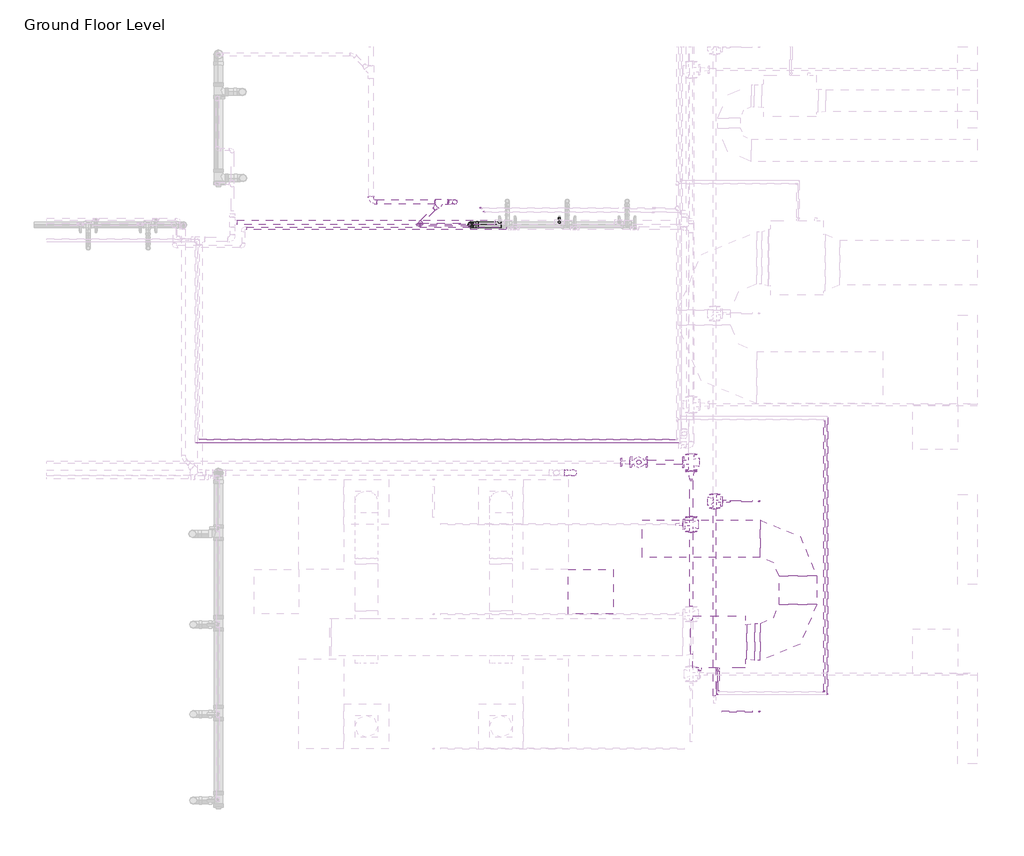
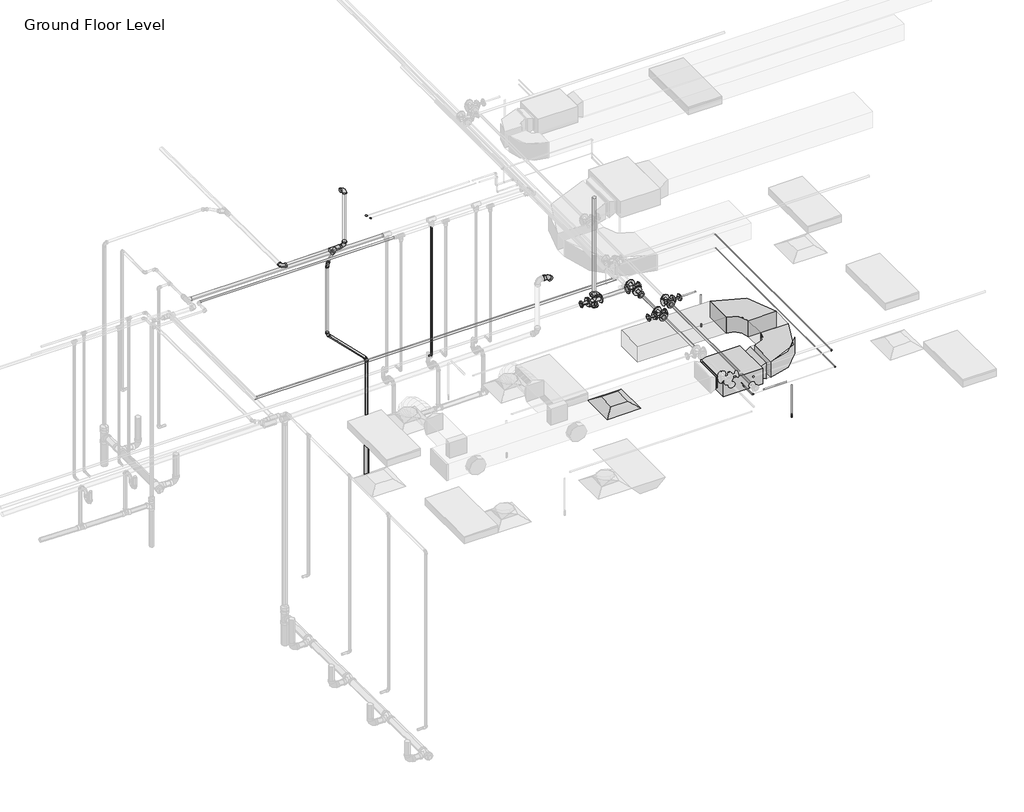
# One storey, part 15 of 68: 29 pipe segments, 24 pipe fittings, 3 duct fittings, 3 duct segments, 2 fire suppression terminals, 1 air terminal, 1 proxy.
"""IFC4 building model written with IfcOpenShell, lengths in millimetres."""

from ifc_helpers import new_model, si_unit, point, frame, frame_2d, origin, place, context, project, spatial, polyline, circle_curve, trimmed, segment, composite_curve, outline, extrude, transform, mapped, element, save
from components import m_return_diffuser_600_x_600_face_300_x_300_connection_ff221211, fcu_daikin_iu_bad131e0, m_rectangular_elbow_radius_1_w_abe20169, m_rectangular_transition_angle_45_degree_f7c2916c, m_sprinkler_pendent_15_mm_pendent_06fcbd8e, m_bend_pvc_sch_40_dwv_standard_ec028db0, m_bend_pvc_sch_40_dwv_standard_952ced8a, m_bend_pvc_sch_40_dwv_standard_1eaeee76, m_bend_pvc_sch_40_dwv_standard_35448a73, m_bend_pvc_sch_40_dwv_standard_15ff6dcd, m_bend_pvc_sch_40_dwv_standard_14735a05, m_elbow_generic_standard_a088f956, m_elbow_generic_standard_2a704253, m_elbow_generic_standard_bb5ffebe, m_elbow_generic_standard_f0c60a04, m_reducer_flanged_cs_class_150_standard_d42b2106, m_reducer_flanged_cs_class_150_standard_a7631c35, m_reducer_flanged_cs_class_150_standard_678fb8eb, m_reducer_flanged_cs_class_150_standard_13db1923, m_reducer_pvc_sch_40_dwv_standard_b84ad399, m_reducer_pvc_sch_40_dwv_standard_7e12a7c1, m_tee_pvc_sch_40_standard_19f5fb6d, m_tee_reducing_sanitary_pvc_sch_40_dwv_standard_b574f8c1, m_tee_round_base_flanged_cs_class_150_standard_dd767e04, m_tee_round_base_flanged_cs_class_150_standard_7e5987a1, m_tee_round_base_flanged_cs_class_150_standard_9c9133d0

model = new_model("IFC4")

# Units and contexts
model_context = context("Model", 3, world=origin())
ifc_project = project(units=[si_unit("LENGTHUNIT", "METRE", prefix="MILLI")], contexts=[model_context])

# Site, building, storey
site = spatial("IfcSite", under=ifc_project)
building = spatial("IfcBuilding", under=site)
storey = spatial("IfcBuildingStorey", under=building, Name="Ground Floor Level", Elevation=900.0)

# Air terminal
placement = place(None, origin())
m_return_diffuser_600_x_600_face_300_x_300_connection_shape = m_return_diffuser_600_x_600_face_300_x_300_connection_ff221211(model_context)
element("IfcAirTerminal", 1, ObjectType="M_Return Diffuser : 600 x 600 Face 300 x 300 Connection", at=placement, inside=storey, context=model_context, shape_type="MappedRepresentation", body=[
    mapped(m_return_diffuser_600_x_600_face_300_x_300_connection_shape, transform((4342.7672394, -37764.7846466, 3650.0), x_axis=(1.0, 0.0, 0.0), y_axis=(0.0, 1.0, 0.0), z_axis=(0.0, 0.0, 1.0))),
])

# Proxy
fcu_daikin_iu_shape = fcu_daikin_iu_bad131e0(model_context)
element("IfcBuildingElementProxy", 2, Name="FCU-DAIKIN IU : 4.5kW, 230V/50Hz/1Ph", ObjectType="FCU-DAIKIN IU : 4.5kW, 230V/50Hz/1Ph", at=placement, inside=storey, context=model_context, shape_type="MappedRepresentation", body=[
    mapped(fcu_daikin_iu_shape, transform((6052.7672394, -38436.1128682, 3934.0875), x_axis=(0.0, -1.0, 0.0), y_axis=(1.0, 0.0, 0.0), z_axis=(0.0, 0.0, 1.0))),
])

# Duct fittings
m_rectangular_elbow_radius_1_w_shape = m_rectangular_elbow_radius_1_w_abe20169(model_context)
element("IfcDuctFitting", 3, ObjectType="M_Rectangular Elbow - Radius : 1 W", at=placement, inside=storey, context=model_context, shape_type="MappedRepresentation", body=[
    mapped(m_rectangular_elbow_radius_1_w_shape, transform((7108.1672394, -38436.1128682, 4075.2875), x_axis=(1.0, 0.0, 0.0), y_axis=(0.0, 1.0, 0.0), z_axis=(0.0, 0.0, 1.0))),
])
element("IfcDuctFitting", 4, ObjectType="M_Rectangular Elbow - Radius : 1 W", at=placement, inside=storey, context=model_context, shape_type="MappedRepresentation", body=[
    mapped(m_rectangular_elbow_radius_1_w_shape, transform((7108.1672394, -37056.1128682, 4075.2875), x_axis=(0.0, 1.0, 0.0), y_axis=(-1.0, 0.0, 0.0), z_axis=(0.0, 0.0, 1.0))),
])
m_rectangular_transition_angle_45_degree_shape = m_rectangular_transition_angle_45_degree_f7c2916c(model_context)
element("IfcDuctFitting", 5, ObjectType="M_Rectangular Transition - Angle : 45 Degree", at=placement, inside=storey, context=model_context, shape_type="MappedRepresentation", body=[
    mapped(m_rectangular_transition_angle_45_degree_shape, transform((6428.1672394, -38436.1128682, 4075.2875), x_axis=(1.0, 0.0, 0.0), y_axis=(0.0, 1.0, 0.0), z_axis=(0.0, 0.0, 1.0))),
])

# Duct segments
element("IfcDuctSegment", 6, ObjectType="Radius Elbows / Taps", at=placement, inside=storey, context=model_context, shape_type="SweptSolid", body=[
    extrude(outline(polyline([(6531.6162906, -38686.1128682), (6531.6162906, -38186.1128682), (6608.1672394, -38186.1128682), (6608.1672394, -38686.1128682), (6531.6162906, -38686.1128682)])), frame((0.0, 0.0, 3925.2875), z_axis=(0.0, 0.0, 1.0), x_axis=(1.0, 0.0, 0.0)), (0.0, 0.0, 1.0), 300.0),
])
element("IfcDuctSegment", 7, ObjectType="Radius Elbows / Taps", at=placement, inside=storey, context=model_context, shape_type="SweptSolid", body=[
    extrude(outline(polyline([(7358.1672394, -37936.1128682), (6858.1672394, -37936.1128682), (6858.1672394, -37556.1128682), (7358.1672394, -37556.1128682), (7358.1672394, -37936.1128682)])), frame((0.0, 0.0, 3925.2875), z_axis=(0.0, 0.0, 1.0), x_axis=(1.0, 0.0, 0.0)), (0.0, 0.0, 1.0), 300.0),
])
element("IfcDuctSegment", 8, ObjectType="Radius Elbows / Taps", at=placement, inside=storey, context=model_context, shape_type="SweptSolid", body=[
    extrude(outline(polyline([(6608.1672394, -36806.1128682), (6608.1672394, -37306.1128682), (5028.1672394, -37306.1128682), (5028.1672394, -36806.1128682), (6608.1672394, -36806.1128682)])), frame((0.0, 0.0, 3925.2875), z_axis=(0.0, 0.0, 1.0), x_axis=(1.0, 0.0, 0.0)), (0.0, 0.0, 1.0), 300.0),
])

# Fire suppression terminals
m_sprinkler_pendent_15_mm_pendent_shape = m_sprinkler_pendent_15_mm_pendent_06fcbd8e(model_context)
element("IfcFireSuppressionTerminal", 9, ObjectType="M_Sprinkler - Pendent : 15 mm Pendent", at=placement, inside=storey, context=model_context, shape_type="MappedRepresentation", body=[
    mapped(m_sprinkler_pendent_15_mm_pendent_shape, transform((6592.5481019, -36555.4049984, 3650.0), x_axis=(1.0, 0.0, 0.0), y_axis=(0.0, 1.0, 0.0), z_axis=(0.0, 0.0, 1.0))),
])
element("IfcFireSuppressionTerminal", 10, ObjectType="M_Sprinkler - Pendent : 15 mm Pendent", at=placement, inside=storey, context=model_context, shape_type="MappedRepresentation", body=[
    mapped(m_sprinkler_pendent_15_mm_pendent_shape, transform((6592.5481019, -39366.4607861, 3650.0), x_axis=(1.0, 0.0, 0.0), y_axis=(0.0, 1.0, 0.0), z_axis=(0.0, 0.0, 1.0))),
])

# Pipe fittings
m_bend_pvc_sch_40_dwv_standard_shape = m_bend_pvc_sch_40_dwv_standard_ec028db0(model_context)
element("IfcPipeFitting", 11, ObjectType="M_Bend - PVC - Sch 40 - DWV : Standard", at=placement, inside=storey, context=model_context, shape_type="MappedRepresentation", body=[
    mapped(m_bend_pvc_sch_40_dwv_standard_shape, transform((1404.8829692, -32554.2948449, 4125.20016), x_axis=(0.0, -0.9999500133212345, 0.009998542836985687), y_axis=(0.9999500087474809, 9.997543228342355e-05, 0.00999850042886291), z_axis=(-0.009999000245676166, 0.0099980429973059, 0.9999000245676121))),
])
m_bend_pvc_sch_40_dwv_standard_2_shape = m_bend_pvc_sch_40_dwv_standard_952ced8a(model_context)
element("IfcPipeFitting", 12, ObjectType="M_Bend - PVC - Sch 40 - DWV : Standard", at=placement, inside=storey, context=model_context, shape_type="MappedRepresentation", body=[
    mapped(m_bend_pvc_sch_40_dwv_standard_2_shape, transform((2524.6562734, -32554.2948449, 4136.397893), x_axis=(0.9999500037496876, 0.0, 0.009999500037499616), y_axis=(-0.009999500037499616, 0.0, 0.9999500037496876), z_axis=(0.0, -1.0, 0.0))),
])
m_bend_pvc_sch_40_dwv_standard_3_shape = m_bend_pvc_sch_40_dwv_standard_1eaeee76(model_context)
element("IfcPipeFitting", 13, ObjectType="M_Bend - PVC - Sch 40 - DWV : Standard", at=placement, inside=storey, context=model_context, shape_type="MappedRepresentation", body=[
    mapped(m_bend_pvc_sch_40_dwv_standard_3_shape, transform((2524.640275, -32554.2948449, 5200.0), x_axis=(0.0, 0.0, 1.0), y_axis=(-1.0, 0.0, 0.0), z_axis=(0.0, -1.0, 0.0))),
])
m_bend_pvc_sch_40_dwv_standard_4_shape = m_bend_pvc_sch_40_dwv_standard_35448a73(model_context)
element("IfcPipeFitting", 14, ObjectType="M_Bend - PVC - Sch 40 - DWV : Standard", at=placement, inside=storey, context=model_context, shape_type="MappedRepresentation", body=[
    mapped(m_bend_pvc_sch_40_dwv_standard_4_shape, transform((2740.8154211, -32858.7119065, 2103.6875), x_axis=(0.0, 0.0, 1.0), y_axis=(-1.0, 0.0, 0.0), z_axis=(0.0, -1.0, 0.0))),
])
element("IfcPipeFitting", 15, ObjectType="M_Bend - PVC - Sch 40 - DWV : Standard", at=placement, inside=storey, context=model_context, shape_type="MappedRepresentation", body=[
    mapped(m_bend_pvc_sch_40_dwv_standard_4_shape, transform((2040.8154211, -32858.7119065, 2803.6875), x_axis=(0.0, 0.0, -1.0), y_axis=(1.0, 0.0, 0.0), z_axis=(0.0, -1.0, 0.0))),
])
m_bend_pvc_sch_40_dwv_standard_5_shape = m_bend_pvc_sch_40_dwv_standard_15ff6dcd(model_context)
element("IfcPipeFitting", 16, ObjectType="M_Bend - PVC - Sch 40 - DWV : Standard", at=placement, inside=storey, context=model_context, shape_type="MappedRepresentation", body=[
    mapped(m_bend_pvc_sch_40_dwv_standard_5_shape, transform((2040.8154211, -32858.7119065, 4132.2), x_axis=(0.0, 0.0, 1.0), y_axis=(0.7067664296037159, 0.7074469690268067, 0.0), z_axis=(-0.7074469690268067, 0.7067664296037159, 0.0))),
])
m_bend_pvc_sch_40_dwv_standard_6_shape = m_bend_pvc_sch_40_dwv_standard_14735a05(model_context)
element("IfcPipeFitting", 17, ObjectType="M_Bend - PVC - Sch 40 - DWV : Standard", at=placement, inside=storey, context=model_context, shape_type="MappedRepresentation", body=[
    mapped(m_bend_pvc_sch_40_dwv_standard_6_shape, transform((4066.142039, -36176.1401483, 5198.6726756), x_axis=(0.9999500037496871, 0.0, -0.009999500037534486), y_axis=(-0.009999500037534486, 0.0, -0.9999500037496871), z_axis=(0.0, 1.0, 0.0))),
])
m_elbow_generic_standard_shape = m_elbow_generic_standard_a088f956(model_context)
element("IfcPipeFitting", 18, ObjectType="M_Elbow - Generic : Standard", at=placement, inside=storey, context=model_context, shape_type="MappedRepresentation", body=[
    mapped(m_elbow_generic_standard_shape, transform((7462.8951827, -39103.1206952, 4390.0), x_axis=(1.0, 0.0, 0.0), y_axis=(0.0, 1.0, 0.0), z_axis=(0.0, 0.0, 1.0))),
])
m_elbow_generic_standard_2_shape = m_elbow_generic_standard_2a704253(model_context)
element("IfcPipeFitting", 19, ObjectType="M_Elbow - Generic : Standard", at=placement, inside=storey, context=model_context, shape_type="MappedRepresentation", body=[
    mapped(m_elbow_generic_standard_2_shape, transform((7503.9904113, -39140.6009836, 4084.9), x_axis=(1.0, 0.0, 0.0), y_axis=(0.0, 1.0, 0.0), z_axis=(0.0, 0.0, 1.0))),
])
element("IfcPipeFitting", 20, ObjectType="M_Elbow - Generic : Standard", at=placement, inside=storey, context=model_context, shape_type="MappedRepresentation", body=[
    mapped(m_elbow_generic_standard_2_shape, transform((6027.7672393, -39140.6009836, 4084.9), x_axis=(0.0, -0.9999999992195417, 3.9508437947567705e-05), y_axis=(1.0000000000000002, 0.0, 0.0), z_axis=(0.0, 3.9508437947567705e-05, 0.9999999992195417))),
])
m_elbow_generic_standard_3_shape = m_elbow_generic_standard_bb5ffebe(model_context)
element("IfcPipeFitting", 21, ObjectType="M_Elbow - Generic : Standard", at=placement, inside=storey, context=model_context, shape_type="MappedRepresentation", body=[
    mapped(m_elbow_generic_standard_3_shape, transform((2867.2893107, -32638.716218, 4621.4908765), x_axis=(0.0, -1.0, 0.0), y_axis=(1.0, 0.0, 0.0), z_axis=(0.0, 0.0, 1.0))),
])
m_elbow_generic_standard_4_shape = m_elbow_generic_standard_f0c60a04(model_context)
element("IfcPipeFitting", 22, ObjectType="M_Elbow - Generic : Standard", at=placement, inside=storey, context=model_context, shape_type="MappedRepresentation", body=[
    mapped(m_elbow_generic_standard_4_shape, transform((2911.3621079, -32691.5527522, 4591.0863665), x_axis=(0.0, -1.0, 0.0), y_axis=(1.0, 0.0, 0.0), z_axis=(0.0, 0.0, 1.0))),
])
m_reducer_flanged_cs_class_150_standard_shape = m_reducer_flanged_cs_class_150_standard_d42b2106(model_context)
element("IfcPipeFitting", 23, ObjectType="M_Reducer - Flanged - CS - Class 150 : Standard", at=placement, inside=storey, context=model_context, shape_type="MappedRepresentation", body=[
    mapped(m_reducer_flanged_cs_class_150_standard_shape, transform((6097.7664057, -36555.4049984, 4291.2754753), x_axis=(1.0, 0.0, 0.0), y_axis=(0.0, 0.0, -1.0), z_axis=(0.0, 1.0, 0.0))),
])
m_reducer_flanged_cs_class_150_standard_2_shape = m_reducer_flanged_cs_class_150_standard_a7631c35(model_context)
element("IfcPipeFitting", 24, ObjectType="M_Reducer - Flanged - CS - Class 150 : Standard", at=placement, inside=storey, context=model_context, shape_type="MappedRepresentation", body=[
    mapped(m_reducer_flanged_cs_class_150_standard_2_shape, transform((4870.6174894, -36033.7985971, 4347.5), x_axis=(-1.0, 0.0, 0.0), y_axis=(0.0, -1.0, 0.0), z_axis=(0.0, 0.0, 1.0))),
])
m_reducer_flanged_cs_class_150_standard_3_shape = m_reducer_flanged_cs_class_150_standard_678fb8eb(model_context)
element("IfcPipeFitting", 25, ObjectType="M_Reducer - Flanged - CS - Class 150 : Standard", at=placement, inside=storey, context=model_context, shape_type="MappedRepresentation", body=[
    mapped(m_reducer_flanged_cs_class_150_standard_3_shape, transform((5578.5188957, -36864.7846466, 4347.5), x_axis=(-1.0, 0.0, 0.0), y_axis=(0.0, -1.0, 0.0), z_axis=(0.0, 0.0, 1.0))),
])
m_reducer_flanged_cs_class_150_standard_4_shape = m_reducer_flanged_cs_class_150_standard_13db1923(model_context)
element("IfcPipeFitting", 26, ObjectType="M_Reducer - Flanged - CS - Class 150 : Standard", at=placement, inside=storey, context=model_context, shape_type="MappedRepresentation", body=[
    mapped(m_reducer_flanged_cs_class_150_standard_4_shape, transform((5684.6174894, -36147.7985971, 4347.5), x_axis=(0.0, -1.0, 0.0), y_axis=(1.0, 0.0, 0.0), z_axis=(0.0, 0.0, 1.0))),
])
m_reducer_pvc_sch_40_dwv_standard_shape = m_reducer_pvc_sch_40_dwv_standard_b84ad399(model_context)
element("IfcPipeFitting", 27, ObjectType="M_Reducer - PVC - Sch 40 - DWV : Standard", at=placement, inside=storey, context=model_context, shape_type="MappedRepresentation", body=[
    mapped(m_reducer_pvc_sch_40_dwv_standard_shape, transform((2740.8154211, -32858.7119065, 785.9492095), x_axis=(0.0, 0.0, 1.0), y_axis=(-1.0, 0.0, 0.0), z_axis=(0.0, -1.0, 0.0))),
])
m_reducer_pvc_sch_40_dwv_standard_2_shape = m_reducer_pvc_sch_40_dwv_standard_7e12a7c1(model_context)
element("IfcPipeFitting", 28, ObjectType="M_Reducer - PVC - Sch 40 - DWV : Standard", at=placement, inside=storey, context=model_context, shape_type="MappedRepresentation", body=[
    mapped(m_reducer_pvc_sch_40_dwv_standard_2_shape, transform((2285.3872765, -32613.9038225, 4134.1686229), x_axis=(-0.7067614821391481, -0.707433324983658, -0.0051281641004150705), y_axis=(0.7073812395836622, -0.7067747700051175, 0.009011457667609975), z_axis=(-0.009999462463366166, 0.0027413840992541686, 0.999946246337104))),
])
m_tee_pvc_sch_40_standard_shape = m_tee_pvc_sch_40_standard_19f5fb6d(model_context)
element("IfcPipeFitting", 29, ObjectType="M_Tee - PVC - Sch 40 : Standard", at=placement, inside=storey, context=model_context, shape_type="MappedRepresentation", body=[
    mapped(m_tee_pvc_sch_40_standard_shape, transform((2344.939644, -32554.2948449, 4134.6007267), x_axis=(0.9999500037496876, 0.0, 0.009999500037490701), y_axis=(2.7412470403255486e-05, 0.9999962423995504, -0.002741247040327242), z_axis=(-0.009999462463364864, 0.0027413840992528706, 0.9999462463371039))),
])
m_tee_reducing_sanitary_pvc_sch_40_dwv_standard_shape = m_tee_reducing_sanitary_pvc_sch_40_dwv_standard_b574f8c1(model_context)
element("IfcPipeFitting", 30, ObjectType="M_Tee Reducing Sanitary - PVC - Sch 40 - DWV : Standard", at=placement, inside=storey, context=model_context, shape_type="MappedRepresentation", body=[
    mapped(m_tee_reducing_sanitary_pvc_sch_40_dwv_standard_shape, transform((2740.8154211, -32858.7119065, 701.6), x_axis=(0.0, 0.0, 1.0), y_axis=(-1.0, 0.0, 0.0), z_axis=(0.0, -1.0, 0.0))),
])
m_tee_round_base_flanged_cs_class_150_standard_shape = m_tee_round_base_flanged_cs_class_150_standard_dd767e04(model_context)
element("IfcPipeFitting", 31, ObjectType="M_Tee Round Base - Flanged - CS - Class 150 : Standard", at=placement, inside=storey, context=model_context, shape_type="MappedRepresentation", body=[
    mapped(m_tee_round_base_flanged_cs_class_150_standard_shape, transform((5684.6174894, -36033.7985971, 4347.5), x_axis=(0.0, 1.0, 0.0), y_axis=(1.0, 0.0, 0.0), z_axis=(0.0, 0.0, -1.0))),
])
element("IfcPipeFitting", 32, ObjectType="M_Tee Round Base - Flanged - CS - Class 150 : Standard", at=placement, inside=storey, context=model_context, shape_type="MappedRepresentation", body=[
    mapped(m_tee_round_base_flanged_cs_class_150_standard_shape, transform((4984.6174894, -36033.7985971, 4347.5), x_axis=(-1.0, 0.0, 0.0), y_axis=(0.0, 0.0, -1.0), z_axis=(0.0, -1.0, 0.0))),
])
m_tee_round_base_flanged_cs_class_150_standard_2_shape = m_tee_round_base_flanged_cs_class_150_standard_7e5987a1(model_context)
element("IfcPipeFitting", 33, ObjectType="M_Tee Round Base - Flanged - CS - Class 150 : Standard", at=placement, inside=storey, context=model_context, shape_type="MappedRepresentation", body=[
    mapped(m_tee_round_base_flanged_cs_class_150_standard_2_shape, transform((5997.057812, -36555.4049984, 4291.0943441), x_axis=(0.0, 1.0, 0.0), y_axis=(-1.0, 0.0, 0.0), z_axis=(0.0, 0.0, 1.0))),
])
m_tee_round_base_flanged_cs_class_150_standard_3_shape = m_tee_round_base_flanged_cs_class_150_standard_9c9133d0(model_context)
element("IfcPipeFitting", 34, ObjectType="M_Tee Round Base - Flanged - CS - Class 150 : Standard", at=placement, inside=storey, context=model_context, shape_type="MappedRepresentation", body=[
    mapped(m_tee_round_base_flanged_cs_class_150_standard_3_shape, transform((5684.6174894, -36864.7846466, 4347.5), x_axis=(0.0, 1.0, 0.0), y_axis=(1.0, 0.0, 0.0), z_axis=(0.0, 0.0, -1.0))),
])

# Pipe segments
element("IfcPipeSegment", 35, ObjectType="CPVC", at=placement, inside=storey, context=model_context, shape_type="SweptSolid", body=[
    extrude(outline(composite_curve([segment(trimmed(circle_curve(frame_2d((1690.0, 3922.4697583)), 13.335), [point((1690.0, 3935.8047583))], [point((1703.335, 3922.4697583))], False, "CARTESIAN"), True, "CONTINUOUS"), segment(trimmed(circle_curve(frame_2d((1690.0, 3922.4697583)), 13.335), [point((1703.335, 3922.4697583))], [point((1690.0, 3909.1347583))], False, "CARTESIAN"), True, "CONTINUOUS"), segment(trimmed(circle_curve(frame_2d((1690.0, 3922.4697583)), 13.335), [point((1690.0, 3909.1347583))], [point((1676.665, 3922.4697583))], False, "CARTESIAN"), True, "CONTINUOUS"), segment(trimmed(circle_curve(frame_2d((1690.0, 3922.4697583)), 13.335), [point((1676.665, 3922.4697583))], [point((1690.0, 3935.8047583))], False, "CARTESIAN"), True, "CONTINUOUS")], self_intersect=False)), frame((0.0, -32789.6602951, 0.0), z_axis=(0.0, 1.0, 0.0), x_axis=(0.0, 0.0, 1.0)), (0.0, 0.0, 1.0), 24.8756485),
])
element("IfcPipeSegment", 36, ObjectType="CPVC", at=placement, inside=storey, context=model_context, shape_type="SweptSolid", body=[
    extrude(outline(composite_curve([segment(trimmed(circle_curve(frame_2d((3922.4697583, -32824.9853451)), 13.335), [point((3935.8047583, -32824.9853451))], [point((3922.4697583, -32838.3203451))], False, "CARTESIAN"), True, "CONTINUOUS"), segment(trimmed(circle_curve(frame_2d((3922.4697583, -32824.9853451)), 13.335), [point((3922.4697583, -32838.3203451))], [point((3909.1347583, -32824.9853451))], False, "CARTESIAN"), True, "CONTINUOUS"), segment(trimmed(circle_curve(frame_2d((3922.4697583, -32824.9853451)), 13.335), [point((3909.1347583, -32824.9853451))], [point((3922.4697583, -32811.6503451))], False, "CARTESIAN"), True, "CONTINUOUS"), segment(trimmed(circle_curve(frame_2d((3922.4697583, -32824.9853451)), 13.335), [point((3922.4697583, -32811.6503451))], [point((3935.8047583, -32824.9853451))], False, "CARTESIAN"), True, "CONTINUOUS")], self_intersect=False)), frame((0.0, 0.0, 1725.32505), z_axis=(0.0, 0.0, 1.0), x_axis=(1.0, 0.0, 0.0)), (0.0, 0.0, 1.0), 2431.503075),
])
element("IfcPipeSegment", 37, ObjectType="CPVC", at=placement, inside=storey, context=model_context, shape_type="SweptSolid", body=[
    extrude(outline(composite_curve([segment(trimmed(circle_curve(frame_2d((-32824.9853451, 4300.0)), 30.1625), [point((-32855.1478451, 4300.0))], [point((-32824.9853451, 4330.1625))], False, "CARTESIAN"), True, "CONTINUOUS"), segment(trimmed(circle_curve(frame_2d((-32824.9853451, 4300.0)), 30.1625), [point((-32824.9853451, 4330.1625))], [point((-32794.8228451, 4300.0))], False, "CARTESIAN"), True, "CONTINUOUS"), segment(trimmed(circle_curve(frame_2d((-32824.9853451, 4300.0)), 30.1625), [point((-32794.8228451, 4300.0))], [point((-32824.9853451, 4269.8375))], False, "CARTESIAN"), True, "CONTINUOUS"), segment(trimmed(circle_curve(frame_2d((-32824.9853451, 4300.0)), 30.1625), [point((-32824.9853451, 4269.8375))], [point((-32855.1478451, 4300.0))], False, "CARTESIAN"), True, "CONTINUOUS")], self_intersect=False)), frame((-380.5577605, 0.0, 0.0), z_axis=(1.0, 0.0, 0.0), x_axis=(0.0, 1.0, 0.0)), (0.0, 0.0, 1.0), 3436.3525188),
])
element("IfcPipeSegment", 38, ObjectType="CPVC", at=placement, inside=storey, context=model_context, shape_type="SweptSolid", body=[
    extrude(outline(composite_curve([segment(trimmed(circle_curve(frame_2d((-32905.870708, 4250.0)), 16.7005), [point((-32889.170208, 4250.0))], [point((-32905.870708, 4233.2995))], False, "CARTESIAN"), True, "CONTINUOUS"), segment(trimmed(circle_curve(frame_2d((-32905.870708, 4250.0)), 16.7005), [point((-32905.870708, 4233.2995))], [point((-32922.571208, 4250.0))], False, "CARTESIAN"), True, "CONTINUOUS"), segment(trimmed(circle_curve(frame_2d((-32905.870708, 4250.0)), 16.7005), [point((-32922.571208, 4250.0))], [point((-32905.870708, 4266.7005))], False, "CARTESIAN"), True, "CONTINUOUS"), segment(trimmed(circle_curve(frame_2d((-32905.870708, 4250.0)), 16.7005), [point((-32905.870708, 4266.7005))], [point((-32889.170208, 4250.0))], False, "CARTESIAN"), True, "CONTINUOUS")], self_intersect=False)), frame((-256.1798698, 0.0, 0.0), z_axis=(1.0, 0.0, 0.0), x_axis=(0.0, 1.0, 0.0)), (0.0, 0.0, 1.0), 3467.1855943),
])
element("IfcPipeSegment", 39, ObjectType="Copper", at=placement, inside=storey, context=model_context, shape_type="SweptSolid", body=[
    extrude(outline(composite_curve([segment(trimmed(circle_curve(frame_2d((-35730.466218, 4390.0)), 6.5), [point((-35723.966218, 4390.0))], [point((-35730.466218, 4383.5))], False, "CARTESIAN"), True, "CONTINUOUS"), segment(trimmed(circle_curve(frame_2d((-35730.466218, 4390.0)), 6.5), [point((-35730.466218, 4383.5))], [point((-35736.966218, 4390.0))], False, "CARTESIAN"), True, "CONTINUOUS"), segment(trimmed(circle_curve(frame_2d((-35730.466218, 4390.0)), 6.5), [point((-35736.966218, 4390.0))], [point((-35730.466218, 4396.5))], False, "CARTESIAN"), True, "CONTINUOUS"), segment(trimmed(circle_curve(frame_2d((-35730.466218, 4390.0)), 6.5), [point((-35730.466218, 4396.5))], [point((-35723.966218, 4390.0))], False, "CARTESIAN"), True, "CONTINUOUS")], self_intersect=False)), frame((-882.8173173, 0.0, 0.0), z_axis=(1.0, 0.0, 0.0), x_axis=(0.0, 1.0, 0.0)), (0.0, 0.0, 1.0), 6366.425),
])
element("IfcPipeSegment", 40, ObjectType="Copper", at=placement, inside=storey, context=model_context, shape_type="SweptSolid", body=[
    extrude(outline(composite_curve([segment(trimmed(circle_curve(frame_2d((-35773.5402522, 4377.5)), 3.35), [point((-35770.1902522, 4377.5))], [point((-35773.5402522, 4374.15))], False, "CARTESIAN"), True, "CONTINUOUS"), segment(trimmed(circle_curve(frame_2d((-35773.5402522, 4377.5)), 3.35), [point((-35773.5402522, 4374.15))], [point((-35776.8902522, 4377.5))], False, "CARTESIAN"), True, "CONTINUOUS"), segment(trimmed(circle_curve(frame_2d((-35773.5402522, 4377.5)), 3.35), [point((-35776.8902522, 4377.5))], [point((-35773.5402522, 4380.85))], False, "CARTESIAN"), True, "CONTINUOUS"), segment(trimmed(circle_curve(frame_2d((-35773.5402522, 4377.5)), 3.35), [point((-35773.5402522, 4380.85))], [point((-35770.1902522, 4377.5))], False, "CARTESIAN"), True, "CONTINUOUS")], self_intersect=False)), frame((-929.8720887, 0.0, 0.0), z_axis=(1.0, 0.0, 0.0), x_axis=(0.0, 1.0, 0.0)), (0.0, 0.0, 1.0), 6462.725),
])
element("IfcPipeSegment", 41, ObjectType="Copper", at=placement, inside=storey, context=model_context, shape_type="SweptSolid", body=[
    extrude(outline(composite_curve([segment(trimmed(circle_curve(frame_2d((4390.0, 7462.8951827)), 6.5), [point((4390.0, 7456.3951827))], [point((4383.5, 7462.8951827))], False, "CARTESIAN"), True, "CONTINUOUS"), segment(trimmed(circle_curve(frame_2d((4390.0, 7462.8951827)), 6.5), [point((4383.5, 7462.8951827))], [point((4390.0, 7469.3951827))], False, "CARTESIAN"), True, "CONTINUOUS"), segment(trimmed(circle_curve(frame_2d((4390.0, 7462.8951827)), 6.5), [point((4390.0, 7469.3951827))], [point((4396.5, 7462.8951827))], False, "CARTESIAN"), True, "CONTINUOUS"), segment(trimmed(circle_curve(frame_2d((4390.0, 7462.8951827)), 6.5), [point((4396.5, 7462.8951827))], [point((4390.0, 7456.3951827))], False, "CARTESIAN"), True, "CONTINUOUS")], self_intersect=False)), frame((0.0, -39088.8331952, 0.0), z_axis=(0.0, 1.0, 0.0), x_axis=(0.0, 0.0, 1.0)), (0.0, 0.0, 1.0), 3611.425),
])
element("IfcPipeSegment", 42, ObjectType="Copper", at=placement, inside=storey, context=model_context, shape_type="SweptSolid", body=[
    extrude(outline(composite_curve([segment(trimmed(circle_curve(frame_2d((4084.9, 7503.9904113)), 3.35), [point((4084.9, 7500.6404113))], [point((4081.55, 7503.9904113))], False, "CARTESIAN"), True, "CONTINUOUS"), segment(trimmed(circle_curve(frame_2d((4084.9, 7503.9904113)), 3.35), [point((4081.55, 7503.9904113))], [point((4084.9, 7507.3404113))], False, "CARTESIAN"), True, "CONTINUOUS"), segment(trimmed(circle_curve(frame_2d((4084.9, 7503.9904113)), 3.35), [point((4084.9, 7507.3404113))], [point((4088.25, 7503.9904113))], False, "CARTESIAN"), True, "CONTINUOUS"), segment(trimmed(circle_curve(frame_2d((4084.9, 7503.9904113)), 3.35), [point((4088.25, 7503.9904113))], [point((4084.9, 7500.6404113))], False, "CARTESIAN"), True, "CONTINUOUS")], self_intersect=False)), frame((0.0, -39129.4634836, 0.0), z_axis=(0.0, 1.0, 0.0), x_axis=(0.0, 0.0, 1.0)), (0.0, 0.0, 1.0), 3697.725),
])
element("IfcPipeSegment", 43, ObjectType="Copper", at=placement, inside=storey, context=model_context, shape_type="SweptSolid", body=[
    extrude(outline(composite_curve([segment(trimmed(circle_curve(frame_2d((0.0, -3.35)), 3.35), [point((0.0, -6.7))], [point((-3.35, -3.35))], False, "CARTESIAN"), True, "CONTINUOUS"), segment(trimmed(circle_curve(frame_2d((0.0, -3.35)), 3.35), [point((-3.35, -3.35))], [point((0.0, 0.0))], False, "CARTESIAN"), True, "CONTINUOUS"), segment(trimmed(circle_curve(frame_2d((0.0, -3.35)), 3.35), [point((0.0, 0.0))], [point((3.35, -3.35))], False, "CARTESIAN"), True, "CONTINUOUS"), segment(trimmed(circle_curve(frame_2d((0.0, -3.35)), 3.35), [point((3.35, -3.35))], [point((0.0, -6.7))], False, "CARTESIAN"), True, "CONTINUOUS")], self_intersect=False)), frame((6024.4172393, -38824.2128682, 4084.8875), z_axis=(0.0, -0.9999999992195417, 3.950843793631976e-05), x_axis=(0.0, 3.950843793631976e-05, 0.9999999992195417)), (0.0, 0.0, 1.0), 305.2506156),
])
element("IfcPipeSegment", 44, ObjectType="Copper", at=placement, inside=storey, context=model_context, shape_type="SweptSolid", body=[
    extrude(outline(composite_curve([segment(trimmed(circle_curve(frame_2d((4034.0875, 6052.7672394)), 6.5), [point((4034.0875, 6046.2672394))], [point((4027.5875, 6052.7672394))], False, "CARTESIAN"), True, "CONTINUOUS"), segment(trimmed(circle_curve(frame_2d((4034.0875, 6052.7672394)), 6.5), [point((4027.5875, 6052.7672394))], [point((4034.0875, 6059.2672394))], False, "CARTESIAN"), True, "CONTINUOUS"), segment(trimmed(circle_curve(frame_2d((4034.0875, 6052.7672394)), 6.5), [point((4034.0875, 6059.2672394))], [point((4040.5875, 6052.7672394))], False, "CARTESIAN"), True, "CONTINUOUS"), segment(trimmed(circle_curve(frame_2d((4034.0875, 6052.7672394)), 6.5), [point((4040.5875, 6052.7672394))], [point((4034.0875, 6046.2672394))], False, "CARTESIAN"), True, "CONTINUOUS")], self_intersect=False)), frame((0.0, -39088.8331952, 0.0), z_axis=(0.0, 1.0, 0.0), x_axis=(0.0, 0.0, 1.0)), (0.0, 0.0, 1.0), 264.6203269),
])
element("IfcPipeSegment", 45, ObjectType="PVC - DWV", at=placement, inside=storey, context=model_context, shape_type="SweptSolid", body=[
    extrude(outline(composite_curve([segment(trimmed(circle_curve(frame_2d((0.0, -36.5125)), 36.5125), [point((0.0, 0.0))], [point((36.5125, -36.5125))], False, "CARTESIAN"), True, "CONTINUOUS"), segment(trimmed(circle_curve(frame_2d((0.0, -36.5125)), 36.5125), [point((36.5125, -36.5125))], [point((0.0, -73.025))], False, "CARTESIAN"), True, "CONTINUOUS"), segment(trimmed(circle_curve(frame_2d((0.0, -36.5125)), 36.5125), [point((0.0, -73.025))], [point((-36.5125, -36.5125))], False, "CARTESIAN"), True, "CONTINUOUS"), segment(trimmed(circle_curve(frame_2d((0.0, -36.5125)), 36.5125), [point((-36.5125, -36.5125))], [point((0.0, 0.0))], False, "CARTESIAN"), True, "CONTINUOUS")], self_intersect=False)), frame((2840.7783918, -32822.1994065, 702.5996297), z_axis=(0.9999500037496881, 0.0, 0.0099995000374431), x_axis=(0.0099995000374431, 0.0, -0.9999500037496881)), (0.0, 0.0, 1.0), 306.9624682),
])
element("IfcPipeSegment", 46, ObjectType="PVC - DWV", at=placement, inside=storey, context=model_context, shape_type="SweptSolid", body=[
    extrude(outline(composite_curve([segment(trimmed(circle_curve(frame_2d((2740.8154211, -32858.7119065)), 36.5125), [point((2777.3279211, -32858.7119065))], [point((2740.8154211, -32895.2244065))], False, "CARTESIAN"), True, "CONTINUOUS"), segment(trimmed(circle_curve(frame_2d((2740.8154211, -32858.7119065)), 36.5125), [point((2740.8154211, -32895.2244065))], [point((2704.3029211, -32858.7119065))], False, "CARTESIAN"), True, "CONTINUOUS"), segment(trimmed(circle_curve(frame_2d((2740.8154211, -32858.7119065)), 36.5125), [point((2704.3029211, -32858.7119065))], [point((2740.8154211, -32822.1994065))], False, "CARTESIAN"), True, "CONTINUOUS"), segment(trimmed(circle_curve(frame_2d((2740.8154211, -32858.7119065)), 36.5125), [point((2740.8154211, -32822.1994065))], [point((2777.3279211, -32858.7119065))], False, "CARTESIAN"), True, "CONTINUOUS")], self_intersect=False)), frame((0.0, 0.0, -100.0), z_axis=(0.0, 0.0, 1.0), x_axis=(1.0, 0.0, 0.0)), (0.0, 0.0, 1.0), 703.7868813),
])
element("IfcPipeSegment", 47, ObjectType="PVC - DWV", at=placement, inside=storey, context=model_context, shape_type="SweptSolid", body=[
    extrude(outline(composite_curve([segment(trimmed(circle_curve(frame_2d((0.0, 30.1625)), 30.1625), [point((0.0, 0.0))], [point((-30.1625, 30.1625))], False, "CARTESIAN"), True, "CONTINUOUS"), segment(trimmed(circle_curve(frame_2d((0.0, 30.1625)), 30.1625), [point((-30.1625, 30.1625))], [point((0.0, 60.325))], False, "CARTESIAN"), True, "CONTINUOUS"), segment(trimmed(circle_curve(frame_2d((0.0, 30.1625)), 30.1625), [point((0.0, 60.325))], [point((30.1625, 30.1625))], False, "CARTESIAN"), True, "CONTINUOUS"), segment(trimmed(circle_curve(frame_2d((0.0, 30.1625)), 30.1625), [point((30.1625, 30.1625))], [point((0.0, 0.0))], False, "CARTESIAN"), True, "CONTINUOUS")], self_intersect=False)), frame((2429.196344, -32584.4573449, 4135.4432937), z_axis=(0.9999500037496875, 0.0, 0.009999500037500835), x_axis=(0.009999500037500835, 0.0, -0.9999500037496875)), (0.0, 0.0, 1.0), 17.6645023),
])
element("IfcPipeSegment", 48, ObjectType="PVC - DWV", at=placement, inside=storey, context=model_context, shape_type="SweptSolid", body=[
    extrude(outline(composite_curve([segment(trimmed(circle_curve(frame_2d((2740.8154211, -32858.7119065)), 36.5125), [point((2704.3029211, -32858.7119065))], [point((2740.8154211, -32822.1994065))], False, "CARTESIAN"), True, "CONTINUOUS"), segment(trimmed(circle_curve(frame_2d((2740.8154211, -32858.7119065)), 36.5125), [point((2740.8154211, -32822.1994065))], [point((2777.3279211, -32858.7119065))], False, "CARTESIAN"), True, "CONTINUOUS"), segment(trimmed(circle_curve(frame_2d((2740.8154211, -32858.7119065)), 36.5125), [point((2777.3279211, -32858.7119065))], [point((2740.8154211, -32895.2244065))], False, "CARTESIAN"), True, "CONTINUOUS"), segment(trimmed(circle_curve(frame_2d((2740.8154211, -32858.7119065)), 36.5125), [point((2740.8154211, -32895.2244065))], [point((2704.3029211, -32858.7119065))], False, "CARTESIAN"), True, "CONTINUOUS")], self_intersect=False)), frame((0.0, 0.0, 775.9492095), z_axis=(0.0, 0.0, 1.0), x_axis=(1.0, 0.0, 0.0)), (0.0, 0.0, 1.0), 10.0),
])
element("IfcPipeSegment", 49, ObjectType="PVC - DWV", at=placement, inside=storey, context=model_context, shape_type="SweptSolid", body=[
    extrude(outline(composite_curve([segment(trimmed(circle_curve(frame_2d((2040.8154211, -32858.7119065)), 21.082), [point((2019.7334211, -32858.7119065))], [point((2040.8154211, -32837.6299065))], False, "CARTESIAN"), True, "CONTINUOUS"), segment(trimmed(circle_curve(frame_2d((2040.8154211, -32858.7119065)), 21.082), [point((2040.8154211, -32837.6299065))], [point((2061.8974211, -32858.7119065))], False, "CARTESIAN"), True, "CONTINUOUS"), segment(trimmed(circle_curve(frame_2d((2040.8154211, -32858.7119065)), 21.082), [point((2061.8974211, -32858.7119065))], [point((2040.8154211, -32879.7939065))], False, "CARTESIAN"), True, "CONTINUOUS"), segment(trimmed(circle_curve(frame_2d((2040.8154211, -32858.7119065)), 21.082), [point((2040.8154211, -32879.7939065))], [point((2019.7334211, -32858.7119065))], False, "CARTESIAN"), True, "CONTINUOUS")], self_intersect=False)), frame((0.0, 0.0, 2846.5373), z_axis=(0.0, 0.0, 1.0), x_axis=(1.0, 0.0, 0.0)), (0.0, 0.0, 1.0), 1228.5127),
])
element("IfcPipeSegment", 50, ObjectType="PVC - DWV", at=placement, inside=storey, context=model_context, shape_type="SweptSolid", body=[
    extrude(outline(composite_curve([segment(trimmed(circle_curve(frame_2d((0.0, 21.082)), 21.082), [point((21.0816221, 20.9557578))], [point((-0.1262423, 0.000378))], False, "CARTESIAN"), True, "CONTINUOUS"), segment(trimmed(circle_curve(frame_2d((0.0, 21.082)), 21.082), [point((-0.1262423, 0.000378))], [point((-21.081622, 21.2082422))], False, "CARTESIAN"), True, "CONTINUOUS"), segment(trimmed(circle_curve(frame_2d((0.0, 21.082)), 21.082), [point((-21.081622, 21.2082422))], [point((0.1262422, 42.163622))], False, "CARTESIAN"), True, "CONTINUOUS"), segment(trimmed(circle_curve(frame_2d((0.0, 21.082)), 21.082), [point((0.1262422, 42.163622))], [point((21.0816221, 20.9557578))], False, "CARTESIAN"), True, "CONTINUOUS")], self_intersect=False)), frame((2081.2065914, -32818.4604636, 4153.5743147), z_axis=(0.7067527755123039, 0.7074352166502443, 0.005994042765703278), x_axis=(0.7074606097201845, -0.7067274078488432, -0.005988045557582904)), (0.0, 0.0, 1.0), 236.7434543),
])
element("IfcPipeSegment", 51, ObjectType="PVC - DWV", at=placement, inside=storey, context=model_context, shape_type="SweptSolid", body=[
    extrude(outline(composite_curve([segment(trimmed(circle_curve(frame_2d((0.0, 30.1625)), 30.1625), [point((-30.1625, 30.1625))], [point((0.0, 60.325))], False, "CARTESIAN"), True, "CONTINUOUS"), segment(trimmed(circle_curve(frame_2d((0.0, 30.1625)), 30.1625), [point((0.0, 60.325))], [point((30.1625, 30.1625))], False, "CARTESIAN"), True, "CONTINUOUS"), segment(trimmed(circle_curve(frame_2d((0.0, 30.1625)), 30.1625), [point((30.1625, 30.1625))], [point((0.0, 0.0))], False, "CARTESIAN"), True, "CONTINUOUS"), segment(trimmed(circle_curve(frame_2d((0.0, 30.1625)), 30.1625), [point((0.0, 0.0))], [point((-30.1625, 30.1625))], False, "CARTESIAN"), True, "CONTINUOUS")], self_intersect=False)), frame((2524.6562734, -32584.4573449, 4214.198093), z_axis=(-1.7619350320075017e-05, 0.0, 0.9999999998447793), x_axis=(0.9999999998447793, 0.0, 1.7619350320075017e-05)), (0.0, 0.0, 1.0), 908.0017071),
])
element("IfcPipeSegment", 52, ObjectType="PVC - DWV", at=placement, inside=storey, context=model_context, shape_type="SweptSolid", body=[
    extrude(outline(composite_curve([segment(trimmed(circle_curve(frame_2d((2740.8154211, -32858.7119065)), 21.082), [point((2719.7334211, -32858.7119065))], [point((2740.8154211, -32837.6299065))], False, "CARTESIAN"), True, "CONTINUOUS"), segment(trimmed(circle_curve(frame_2d((2740.8154211, -32858.7119065)), 21.082), [point((2740.8154211, -32837.6299065))], [point((2761.8974211, -32858.7119065))], False, "CARTESIAN"), True, "CONTINUOUS"), segment(trimmed(circle_curve(frame_2d((2740.8154211, -32858.7119065)), 21.082), [point((2761.8974211, -32858.7119065))], [point((2740.8154211, -32879.7939065))], False, "CARTESIAN"), True, "CONTINUOUS"), segment(trimmed(circle_curve(frame_2d((2740.8154211, -32858.7119065)), 21.082), [point((2740.8154211, -32879.7939065))], [point((2719.7334211, -32858.7119065))], False, "CARTESIAN"), True, "CONTINUOUS")], self_intersect=False)), frame((0.0, 0.0, 852.3553033), z_axis=(0.0, 0.0, 1.0), x_axis=(1.0, 0.0, 0.0)), (0.0, 0.0, 1.0), 1208.4823967),
])
element("IfcPipeSegment", 53, ObjectType="PVC - DWV", at=placement, inside=storey, context=model_context, shape_type="SweptSolid", body=[
    extrude(outline(composite_curve([segment(trimmed(circle_curve(frame_2d((0.0, 21.082)), 21.082), [point((0.0, 42.164))], [point((21.082, 21.082))], False, "CARTESIAN"), True, "CONTINUOUS"), segment(trimmed(circle_curve(frame_2d((0.0, 21.082)), 21.082), [point((21.082, 21.082))], [point((0.0, 0.0))], False, "CARTESIAN"), True, "CONTINUOUS"), segment(trimmed(circle_curve(frame_2d((0.0, 21.082)), 21.082), [point((0.0, 0.0))], [point((-21.082, 21.082))], False, "CARTESIAN"), True, "CONTINUOUS"), segment(trimmed(circle_curve(frame_2d((0.0, 21.082)), 21.082), [point((-21.082, 21.082))], [point((0.0, 42.164))], False, "CARTESIAN"), True, "CONTINUOUS")], self_intersect=False)), frame((2710.5160369, -32879.7939065, 2133.9868842), z_axis=(-0.7071067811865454, 0.0, 0.7071067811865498), x_axis=(0.7071067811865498, 0.0, 0.7071067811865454)), (0.0, 0.0, 1.0), 904.2498937),
])
element("IfcPipeSegment", 54, ObjectType="PVC - DWV", at=placement, inside=storey, context=model_context, shape_type="SweptSolid", body=[
    extrude(outline(composite_curve([segment(trimmed(circle_curve(frame_2d((0.0, 30.1625)), 30.1625), [point((0.0, 0.0))], [point((-30.1625, 30.1625))], False, "CARTESIAN"), True, "CONTINUOUS"), segment(trimmed(circle_curve(frame_2d((0.0, 30.1625)), 30.1625), [point((-30.1625, 30.1625))], [point((0.0, 60.325))], False, "CARTESIAN"), True, "CONTINUOUS"), segment(trimmed(circle_curve(frame_2d((0.0, 30.1625)), 30.1625), [point((0.0, 60.325))], [point((30.1625, 30.1625))], False, "CARTESIAN"), True, "CONTINUOUS"), segment(trimmed(circle_curve(frame_2d((0.0, 30.1625)), 30.1625), [point((30.1625, 30.1625))], [point((0.0, 0.0))], False, "CARTESIAN"), True, "CONTINUOUS")], self_intersect=False)), frame((1482.6792795, -32584.4573449, 4125.9781231), z_axis=(0.9999500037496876, 0.0, 0.009999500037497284), x_axis=(0.009999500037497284, 0.0, -0.9999500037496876)), (0.0, 0.0, 1.0), 778.0425639),
])
element("IfcPipeSegment", 55, ObjectType="Steel flanged", at=placement, inside=storey, context=model_context, shape_type="SweptSolid", body=[
    extrude(outline(composite_curve([segment(trimmed(circle_curve(frame_2d((6592.5481019, -36555.4049984)), 10.668), [point((6581.8801019, -36555.4049984))], [point((6592.5481019, -36544.7369984))], False, "CARTESIAN"), True, "CONTINUOUS"), segment(trimmed(circle_curve(frame_2d((6592.5481019, -36555.4049984)), 10.668), [point((6592.5481019, -36544.7369984))], [point((6603.2161019, -36555.4049984))], False, "CARTESIAN"), True, "CONTINUOUS"), segment(trimmed(circle_curve(frame_2d((6592.5481019, -36555.4049984)), 10.668), [point((6603.2161019, -36555.4049984))], [point((6592.5481019, -36566.0729984))], False, "CARTESIAN"), True, "CONTINUOUS"), segment(trimmed(circle_curve(frame_2d((6592.5481019, -36555.4049984)), 10.668), [point((6592.5481019, -36566.0729984))], [point((6581.8801019, -36555.4049984))], False, "CARTESIAN"), True, "CONTINUOUS")], self_intersect=False)), frame((0.0, 0.0, 3650.0), z_axis=(0.0, 0.0, 1.0), x_axis=(1.0, 0.0, 0.0)), (0.0, 0.0, 1.0), 548.2668816),
])
element("IfcPipeSegment", 56, ObjectType="Steel flanged", at=placement, inside=storey, context=model_context, shape_type="SweptSolid", body=[
    extrude(outline(composite_curve([segment(trimmed(circle_curve(frame_2d((-36555.4049984, 4291.2754753)), 10.668), [point((-36544.7369984, 4291.2754753))], [point((-36555.4049984, 4280.6074753))], False, "CARTESIAN"), True, "CONTINUOUS"), segment(trimmed(circle_curve(frame_2d((-36555.4049984, 4291.2754753)), 10.668), [point((-36555.4049984, 4280.6074753))], [point((-36566.0729984, 4291.2754753))], False, "CARTESIAN"), True, "CONTINUOUS"), segment(trimmed(circle_curve(frame_2d((-36555.4049984, 4291.2754753)), 10.668), [point((-36566.0729984, 4291.2754753))], [point((-36555.4049984, 4301.9434753))], False, "CARTESIAN"), True, "CONTINUOUS"), segment(trimmed(circle_curve(frame_2d((-36555.4049984, 4291.2754753)), 10.668), [point((-36555.4049984, 4301.9434753))], [point((-36544.7369984, 4291.2754753))], False, "CARTESIAN"), True, "CONTINUOUS")], self_intersect=False)), frame((6211.7664057, 0.0, 0.0), z_axis=(1.0, 0.0, 0.0), x_axis=(0.0, 1.0, 0.0)), (0.0, 0.0, 1.0), 287.7731025),
])
element("IfcPipeSegment", 57, ObjectType="Steel flanged", at=placement, inside=storey, context=model_context, shape_type="SweptSolid", body=[
    extrude(outline(composite_curve([segment(trimmed(circle_curve(frame_2d((6592.5481019, -39366.4607861)), 10.668), [point((6581.8801019, -39366.4607861))], [point((6592.5481019, -39355.7927861))], False, "CARTESIAN"), True, "CONTINUOUS"), segment(trimmed(circle_curve(frame_2d((6592.5481019, -39366.4607861)), 10.668), [point((6592.5481019, -39355.7927861))], [point((6603.2161019, -39366.4607861))], False, "CARTESIAN"), True, "CONTINUOUS"), segment(trimmed(circle_curve(frame_2d((6592.5481019, -39366.4607861)), 10.668), [point((6603.2161019, -39366.4607861))], [point((6592.5481019, -39377.1287861))], False, "CARTESIAN"), True, "CONTINUOUS"), segment(trimmed(circle_curve(frame_2d((6592.5481019, -39366.4607861)), 10.668), [point((6592.5481019, -39377.1287861))], [point((6581.8801019, -39366.4607861))], False, "CARTESIAN"), True, "CONTINUOUS")], self_intersect=False)), frame((0.0, 0.0, 3650.0), z_axis=(0.0, 0.0, 1.0), x_axis=(1.0, 0.0, 0.0)), (0.0, 0.0, 1.0), 548.2668816),
])
element("IfcPipeSegment", 58, ObjectType="Steel flanged", at=placement, inside=storey, context=model_context, shape_type="SweptSolid", body=[
    extrude(outline(composite_curve([segment(trimmed(circle_curve(frame_2d((-39366.4607861, 4291.2754753)), 10.668), [point((-39355.7927861, 4291.2754753))], [point((-39366.4607861, 4280.6074753))], False, "CARTESIAN"), True, "CONTINUOUS"), segment(trimmed(circle_curve(frame_2d((-39366.4607861, 4291.2754753)), 10.668), [point((-39366.4607861, 4280.6074753))], [point((-39377.1287861, 4291.2754753))], False, "CARTESIAN"), True, "CONTINUOUS"), segment(trimmed(circle_curve(frame_2d((-39366.4607861, 4291.2754753)), 10.668), [point((-39377.1287861, 4291.2754753))], [point((-39366.4607861, 4301.9434753))], False, "CARTESIAN"), True, "CONTINUOUS"), segment(trimmed(circle_curve(frame_2d((-39366.4607861, 4291.2754753)), 10.668), [point((-39366.4607861, 4301.9434753))], [point((-39355.7927861, 4291.2754753))], False, "CARTESIAN"), True, "CONTINUOUS")], self_intersect=False)), frame((6090.0664057, 0.0, 0.0), z_axis=(1.0, 0.0, 0.0), x_axis=(0.0, 1.0, 0.0)), (0.0, 0.0, 1.0), 409.4731025),
])
element("IfcPipeSegment", 59, ObjectType="Steel flanged", at=placement, inside=storey, context=model_context, shape_type="SweptSolid", body=[
    extrude(outline(composite_curve([segment(trimmed(circle_curve(frame_2d((4291.0943441, 5997.057812)), 16.7005), [point((4291.0943441, 5980.357312))], [point((4274.3938441, 5997.057812))], False, "CARTESIAN"), True, "CONTINUOUS"), segment(trimmed(circle_curve(frame_2d((4291.0943441, 5997.057812)), 16.7005), [point((4274.3938441, 5997.057812))], [point((4291.0943441, 6013.758312))], False, "CARTESIAN"), True, "CONTINUOUS"), segment(trimmed(circle_curve(frame_2d((4291.0943441, 5997.057812)), 16.7005), [point((4291.0943441, 6013.758312))], [point((4307.7948441, 5997.057812))], False, "CARTESIAN"), True, "CONTINUOUS"), segment(trimmed(circle_curve(frame_2d((4291.0943441, 5997.057812)), 16.7005), [point((4307.7948441, 5997.057812))], [point((4291.0943441, 5980.357312))], False, "CARTESIAN"), True, "CONTINUOUS")], self_intersect=False)), frame((0.0, -39159.4521923, 0.0), z_axis=(0.0, 1.0, 0.0), x_axis=(0.0, 0.0, 1.0)), (0.0, 0.0, 1.0), 2503.3386002),
])
element("IfcPipeSegment", 60, ObjectType="Steel flanged", at=placement, inside=storey, context=model_context, shape_type="SweptSolid", body=[
    extrude(outline(composite_curve([segment(trimmed(circle_curve(frame_2d((-36033.7985971, 4347.5)), 30.1625), [point((-36063.9610971, 4347.5))], [point((-36033.7985971, 4377.6625))], False, "CARTESIAN"), True, "CONTINUOUS"), segment(trimmed(circle_curve(frame_2d((-36033.7985971, 4347.5)), 30.1625), [point((-36033.7985971, 4377.6625))], [point((-36003.6360971, 4347.5))], False, "CARTESIAN"), True, "CONTINUOUS"), segment(trimmed(circle_curve(frame_2d((-36033.7985971, 4347.5)), 30.1625), [point((-36003.6360971, 4347.5))], [point((-36033.7985971, 4317.3375))], False, "CARTESIAN"), True, "CONTINUOUS"), segment(trimmed(circle_curve(frame_2d((-36033.7985971, 4347.5)), 30.1625), [point((-36033.7985971, 4317.3375))], [point((-36063.9610971, 4347.5))], False, "CARTESIAN"), True, "CONTINUOUS")], self_intersect=False)), frame((5098.6174894, 0.0, 0.0), z_axis=(1.0, 0.0, 0.0), x_axis=(0.0, 1.0, 0.0)), (0.0, 0.0, 1.0), 472.0),
])
element("IfcPipeSegment", 61, ObjectType="Steel flanged", at=placement, inside=storey, context=model_context, shape_type="SweptSolid", body=[
    extrude(outline(composite_curve([segment(trimmed(circle_curve(frame_2d((4984.6174894, -36033.7985971)), 30.1625), [point((4954.4549894, -36033.7985971))], [point((4984.6174894, -36003.6360971))], False, "CARTESIAN"), True, "CONTINUOUS"), segment(trimmed(circle_curve(frame_2d((4984.6174894, -36033.7985971)), 30.1625), [point((4984.6174894, -36003.6360971))], [point((5014.7799894, -36033.7985971))], False, "CARTESIAN"), True, "CONTINUOUS"), segment(trimmed(circle_curve(frame_2d((4984.6174894, -36033.7985971)), 30.1625), [point((5014.7799894, -36033.7985971))], [point((4984.6174894, -36063.9610971))], False, "CARTESIAN"), True, "CONTINUOUS"), segment(trimmed(circle_curve(frame_2d((4984.6174894, -36033.7985971)), 30.1625), [point((4984.6174894, -36063.9610971))], [point((4954.4549894, -36033.7985971))], False, "CARTESIAN"), True, "CONTINUOUS")], self_intersect=False)), frame((0.0, 0.0, 4461.5), z_axis=(0.0, 0.0, 1.0), x_axis=(1.0, 0.0, 0.0)), (0.0, 0.0, 1.0), 1824.5),
])
element("IfcPipeSegment", 62, ObjectType="Steel flanged", at=placement, inside=storey, context=model_context, shape_type="SweptSolid", body=[
    extrude(outline(composite_curve([segment(trimmed(circle_curve(frame_2d((4347.5, 5684.6174894)), 21.082), [point((4347.5, 5663.5354894))], [point((4326.418, 5684.6174894))], False, "CARTESIAN"), True, "CONTINUOUS"), segment(trimmed(circle_curve(frame_2d((4347.5, 5684.6174894)), 21.082), [point((4326.418, 5684.6174894))], [point((4347.5, 5705.6994894))], False, "CARTESIAN"), True, "CONTINUOUS"), segment(trimmed(circle_curve(frame_2d((4347.5, 5684.6174894)), 21.082), [point((4347.5, 5705.6994894))], [point((4368.582, 5684.6174894))], False, "CARTESIAN"), True, "CONTINUOUS"), segment(trimmed(circle_curve(frame_2d((4347.5, 5684.6174894)), 21.082), [point((4368.582, 5684.6174894))], [point((4347.5, 5663.5354894))], False, "CARTESIAN"), True, "CONTINUOUS")], self_intersect=False)), frame((0.0, -37958.6860529, 0.0), z_axis=(0.0, 1.0, 0.0), x_axis=(0.0, 0.0, 1.0)), (0.0, 0.0, 1.0), 987.8028125),
])
element("IfcPipeSegment", 63, ObjectType="Steel flanged", at=placement, inside=storey, context=model_context, shape_type="SweptSolid", body=[
    extrude(outline(composite_curve([segment(trimmed(circle_curve(frame_2d((4347.5, 5684.6174894)), 21.082), [point((4347.5, 5663.5354894))], [point((4326.418, 5684.6174894))], False, "CARTESIAN"), True, "CONTINUOUS"), segment(trimmed(circle_curve(frame_2d((4347.5, 5684.6174894)), 21.082), [point((4326.418, 5684.6174894))], [point((4347.5, 5705.6994894))], False, "CARTESIAN"), True, "CONTINUOUS"), segment(trimmed(circle_curve(frame_2d((4347.5, 5684.6174894)), 21.082), [point((4347.5, 5705.6994894))], [point((4368.582, 5684.6174894))], False, "CARTESIAN"), True, "CONTINUOUS"), segment(trimmed(circle_curve(frame_2d((4347.5, 5684.6174894)), 21.082), [point((4368.582, 5684.6174894))], [point((4347.5, 5663.5354894))], False, "CARTESIAN"), True, "CONTINUOUS")], self_intersect=False)), frame((0.0, -36758.6860529, 0.0), z_axis=(0.0, 1.0, 0.0), x_axis=(0.0, 0.0, 1.0)), (0.0, 0.0, 1.0), 483.8874557),
])

save(model, "model.ifc")
